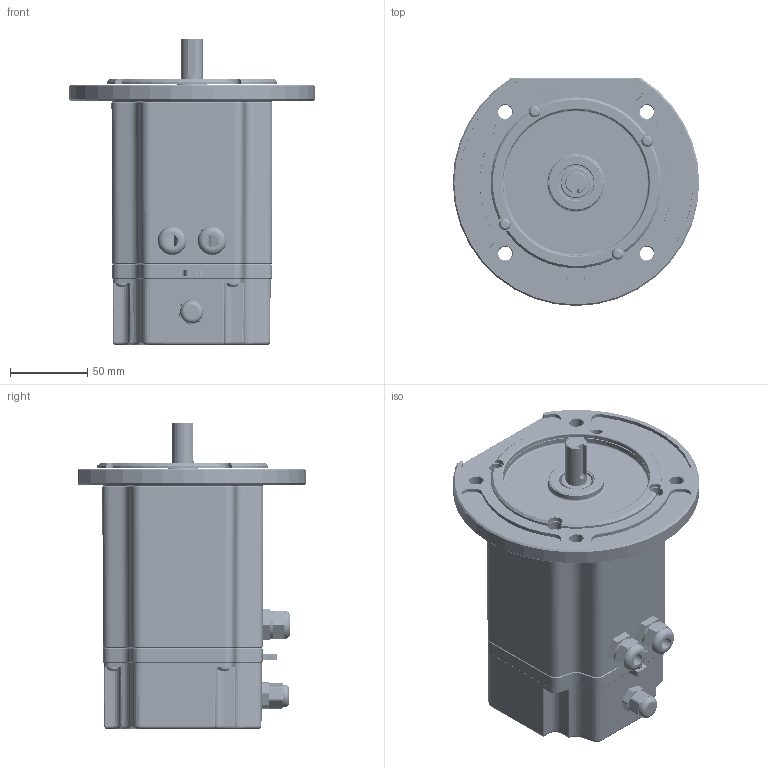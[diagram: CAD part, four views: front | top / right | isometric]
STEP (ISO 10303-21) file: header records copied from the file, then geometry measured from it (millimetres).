
FILE_DESCRIPTION (( 'STEP AP214' ), '1' );
FILE_NAME ('K16¡àK750N¡à-B.STEP', '2025-02-03T07:02:37', ( 'frvao@naver.com' ), ( '' ), 'SwSTEP 2.0', 'SolidWorks 2022', '' );
FILE_SCHEMA (( 'AUTOMOTIVE_DESIGN' ));
Length unit declared in the file: millimetre
Products named in the file (34): ______.STEP; ____33.STEP; HALL PCB-RE01(161226).ipt.STEP.STEP; 400W __________A (______)(160913).ipt.STEP.STEP; REAR-COVER.ipt.STEP.STEP; FRONT-COVER.ipt.STEP.STEP; HALL IC.ipt.STEP.STEP; AS 1420 - 1973 - M4 x 8.ipt.STEP-2.STEP; AS 1420 - 1973 - M4 x 8.ipt.STEP-1.STEP; M-CASE.ipt.STEP.STEP; HALL IC HOLDER.ipt.STEP.STEP; S-CORE.ipt.STEP.STEP; CORE ASS''''''''Y.iam.STEP.STEP; SHAFT.STEP.STEP; BS 290 SKF - SKF 6304-2Z.ipt.STEP.STEP; K16¡àK750N¡à-B; AS 1420 - 1973 - M4 x 8.ipt.STEP.STEP; BRAKE COVER DC.STEP; K16¡àK750N¡à-B.STEP; BS 290 SKF - SKF 6203-2Z.ipt.STEP.STEP; AS 1420 - 1973 - M4 x 8.ipt.STEP-0.STEP; K10__K750N__.STEP.STEP; 400W __________ B (______)(160920).ipt.STEP.STEP; MAGNET.ipt.STEP.STEP; S-CORE ASS''''''''Y.iam.STEP.STEP; K16 R-SHAFT.STEP; KGM IEC FRONT COVER pi160.STEP; PCB ASS''''''''Y.iam.STEP.STEP; PCB PIN.ipt.STEP.STEP; CABLE GRAND.ipt.STEP.STEP; ______.iam.STEP.STEP; SHAFT.ipt.STEP.STEP; R-ASS''''''''Y.iam.STEP.STEP; だお33
Assembly tree (200 placements, depth 7):
  K16¡àK750N¡à-B
    K16¡àK750N¡à-B.STEP
      K10__K750N__.STEP.STEP
        ______.iam.STEP.STEP
          R-ASS''''''''Y.iam.STEP.STEP
            SHAFT.ipt.STEP.STEP
            MAGNET.ipt.STEP.STEP
            BS 290 SKF - SKF 6304-2Z.ipt.STEP.STEP
            BS 290 SKF - SKF 6203-2Z.ipt.STEP.STEP
          CORE ASS''''''''Y.iam.STEP.STEP
            S-CORE ASS''''''''Y.iam.STEP.STEP
              S-CORE.ipt.STEP.STEP  x143
            400W __________A (______)(160913).ipt.STEP.STEP
            400W __________ B (______)(160920).ipt.STEP.STEP
            PCB PIN.ipt.STEP.STEP  x12
          PCB ASS''''''''Y.iam.STEP.STEP
            HALL PCB-RE01(161226).ipt.STEP.STEP
            HALL IC HOLDER.ipt.STEP.STEP  x3
            HALL IC.ipt.STEP.STEP  x3
          M-CASE.ipt.STEP.STEP
          FRONT-COVER.ipt.STEP.STEP
          CABLE GRAND.ipt.STEP.STEP  x2
          REAR-COVER.ipt.STEP.STEP
          AS 1420 - 1973 - M4 x 8.ipt.STEP.STEP
          AS 1420 - 1973 - M4 x 8.ipt.STEP-0.STEP
          AS 1420 - 1973 - M4 x 8.ipt.STEP-1.STEP
          AS 1420 - 1973 - M4 x 8.ipt.STEP-2.STEP  x4
        SHAFT.STEP.STEP
      KGM IEC FRONT COVER pi160.STEP
      ____33.STEP  x6
      K16 R-SHAFT.STEP
      BRAKE COVER DC.STEP
      ______.STEP
    だお33  x2
Bounding box: 160 x 148 x 199.3 mm (x, y, z)
Volume: 995944.7 mm3; surface area: 1503696.3 mm2
Topology: 197 solids, 197 shells, 36401 faces, 106494 edges, 70581 vertices
Faces by surface type: plane 18179, cylinder 17184, bspline 375, torus 354, cone 237, sphere 72
Entity records: 189813 total; most frequent: CARTESIAN_POINT 61900, ORIENTED_EDGE 26620, DIRECTION 25651, EDGE_CURVE 13310, AXIS2_PLACEMENT_3D 9071, VERTEX_POINT 8555, LINE 7509, VECTOR 7509
